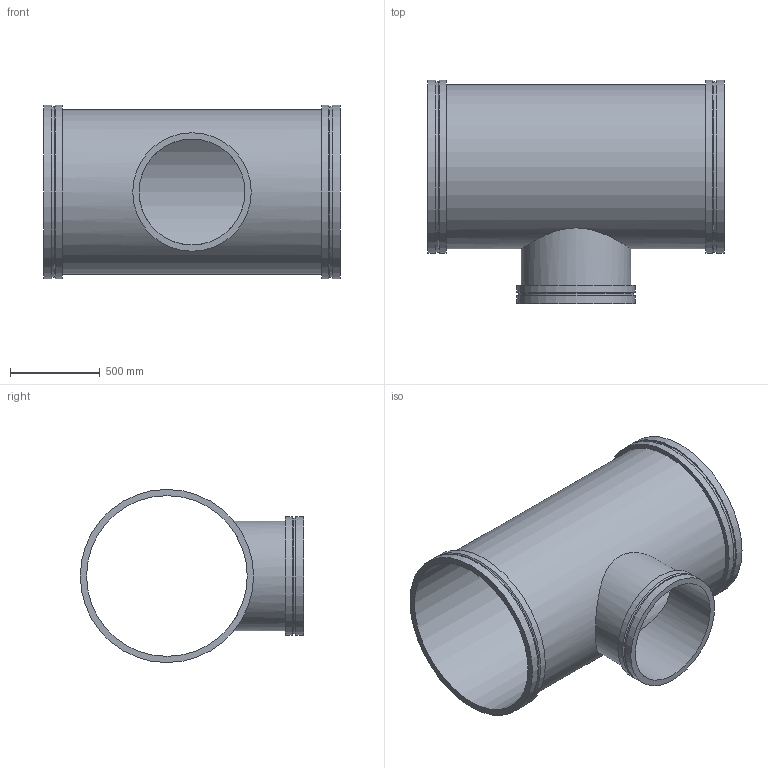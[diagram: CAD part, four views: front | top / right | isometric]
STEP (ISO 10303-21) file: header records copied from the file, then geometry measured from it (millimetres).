
FILE_DESCRIPTION(/* description */ ('VIC REDUCING TEE No W025 VR','CAx-IF Rec.Pracs.---Representation and Presentation of Product Manufacturing Information (PMI)---4.0---2014-10-13'),/* implementation_level */ '2;1');
FILE_NAME(/* name */ 'C:\Users\kkamble\AppData\Roaming\Autodesk\ApplicationPlugins\Back Up\Victaulic_Vic-Ring_Tee Reducing_No W25 VR (AGR)\Victaulic_Vic-Ring_Tee Reducing_No W25 VR (AGR)_36.0x24.0 (900x600).stp',/* time_stamp */ '2020-09-10T11:55:06+05:00',/* author */ ('mchristi'),/* organization */ ('Victaulic'),/* preprocessor_version */ 'ST-DEVELOPER v17.2',/* originating_system */ 'Autodesk Inventor 2019',/* authorisation */ '');
FILE_SCHEMA (('AP242_MANAGED_MODEL_BASED_3D_ENGINEERING_MIM_LF { 1 0 10303 442 1 1 4 }'));
Length unit declared in the file: inch
Products named in the file (1): W25 VR-36.0x24.0
Bounding box: 1651 x 1244.6 x 965.2 mm (x, y, z)
Volume: 67820112.9 mm3; surface area: 10762430.5 mm2
Topology: 1 solids, 1 shells, 25 faces, 68 edges, 52 vertices
Faces by surface type: cylinder 13, plane 9, cone 3
Full cylindrical faces by diameter (mm): 590.55 x1, 609.6 x1, 645.922 x1, 660.4 x2, 895.35 x1, 914.4 x1, 950.722 x2, 965.2 x4
Entity records: 1251 total; most frequent: CARTESIAN_POINT 407, DIRECTION 190, ORIENTED_EDGE 136, AXIS2_PLACEMENT_3D 87, EDGE_CURVE 68, VERTEX_POINT 52, CIRCLE 48, EDGE_LOOP 36
